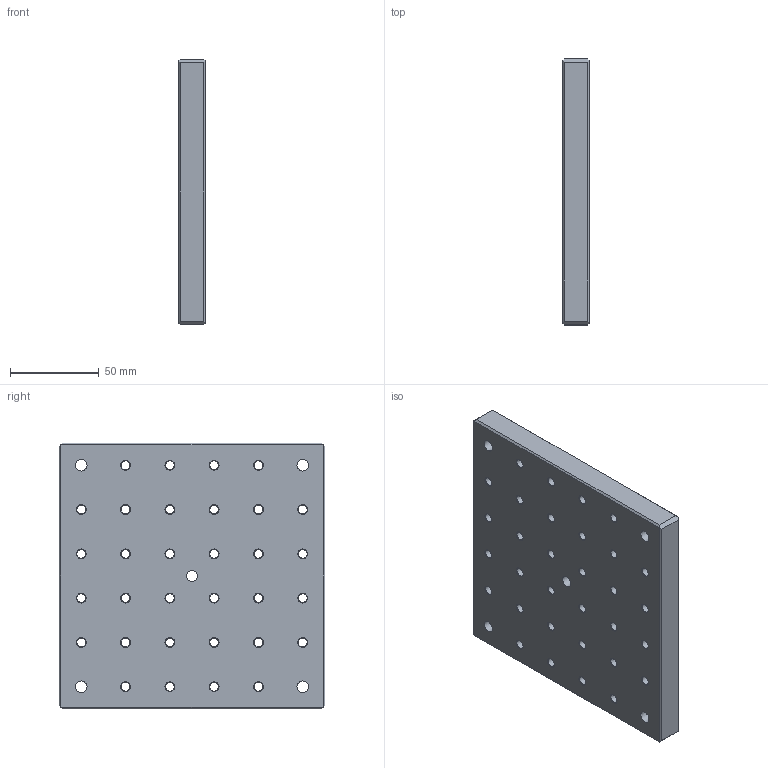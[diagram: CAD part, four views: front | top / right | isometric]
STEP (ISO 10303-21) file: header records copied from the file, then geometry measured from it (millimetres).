
FILE_DESCRIPTION(/* description */ (''),/* implementation_level */ '2;1');
FILE_NAME(/* name */ 'U:\KONSTRUKTORIAI\DOKUMENTACIJA\1\1B-ALE\1B-ALE-15-15-015\step\1B-ALE-15-15-015.01.stp',/* time_stamp */ '2016-06-15T07:59:04+03:00',/* author */ ('dsgn31'),/* organization */ (''),/* preprocessor_version */ 'ST-DEVELOPER v15.2',/* originating_system */ 'Autodesk Inventor 2014',/* authorisation */ '');
FILE_SCHEMA (('AUTOMOTIVE_DESIGN { 1 0 10303 214 3 1 1 }'));
Length unit declared in the file: millimetre
Products named in the file (1): 1B-ALE-15-15-015.01
Bounding box: 15 x 150 x 150 mm (x, y, z)
Volume: 322669.8 mm3; surface area: 61019.8 mm2
Topology: 1 solids, 1 shells, 129 faces, 326 edges, 204 vertices
Faces by surface type: cone 64, cylinder 42, plane 23
Full cylindrical faces by diameter (mm): 4.917 x32, 6.5 x5, 11 x5
Entity records: 3239 total; most frequent: DIRECTION 596, CARTESIAN_POINT 490, ORIENTED_EDGE 376, EDGE_LOOP 314, AXIS2_PLACEMENT_3D 278, EDGE_CURVE 188, FACE_BOUND 187, VERTEX_POINT 172
